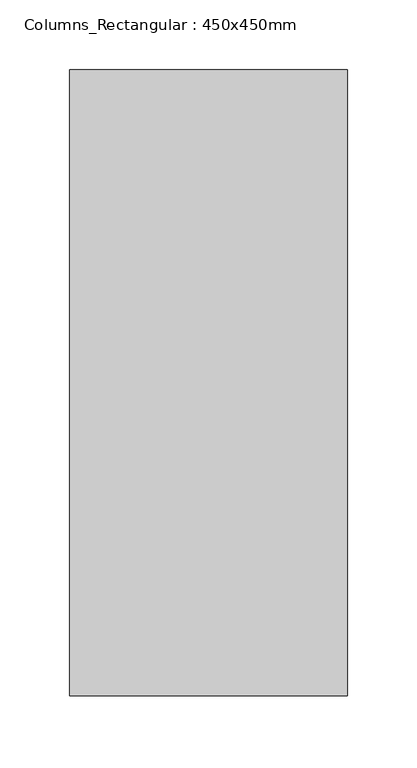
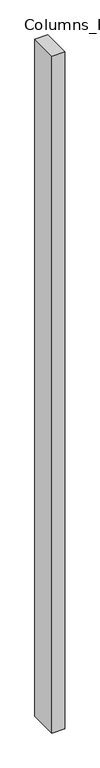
"""IFC4 building model written with IfcOpenShell, lengths in millimetres: column geometry, Columns_Rectangular : 450x450mm."""

from ifc_helpers import new_model, si_unit, frame, origin, place, context, project, spatial, polyline, outline, extrude, source, transform, mapped, element, save


def columns_rectangular_450x450mm_c38d5eef(model_context):
    return source(origin(), model_context, "Body", "SweptSolid", [
        extrude(outline(polyline([(100.0, -225.0), (-100.0, -225.0), (-100.0, 225.0), (100.0, 225.0), (100.0, -225.0)])), frame((0.0, 0.0, 2800.0), z_axis=(0.0, 0.0, 1.0), x_axis=(1.0, 0.0, 0.0)), (0.0, 0.0, 1.0), 11000.0),
    ])


if __name__ == "__main__":
    model = new_model("IFC4")
    model_context = context("Model", 3, world=origin())
    ifc_project = project(units=[si_unit("LENGTHUNIT", "METRE", prefix="MILLI")], contexts=[model_context])
    site = spatial("IfcSite", under=ifc_project)
    building = spatial("IfcBuilding", under=site)
    placement = place(None, origin())
    columns_rectangular_450x450mm_shape = columns_rectangular_450x450mm_c38d5eef(model_context)
    element("IfcColumn", 1, ObjectType="Columns_Rectangular : 450x450mm", at=placement, inside=building, context=model_context, shape_type="MappedRepresentation", body=[
        mapped(columns_rectangular_450x450mm_shape, transform((0.0, 0.0, 0.0), x_axis=(1.0, 0.0, 0.0), y_axis=(0.0, 1.0, 0.0), z_axis=(0.0, 0.0, 1.0))),
    ])
    save(model, "model.ifc")
